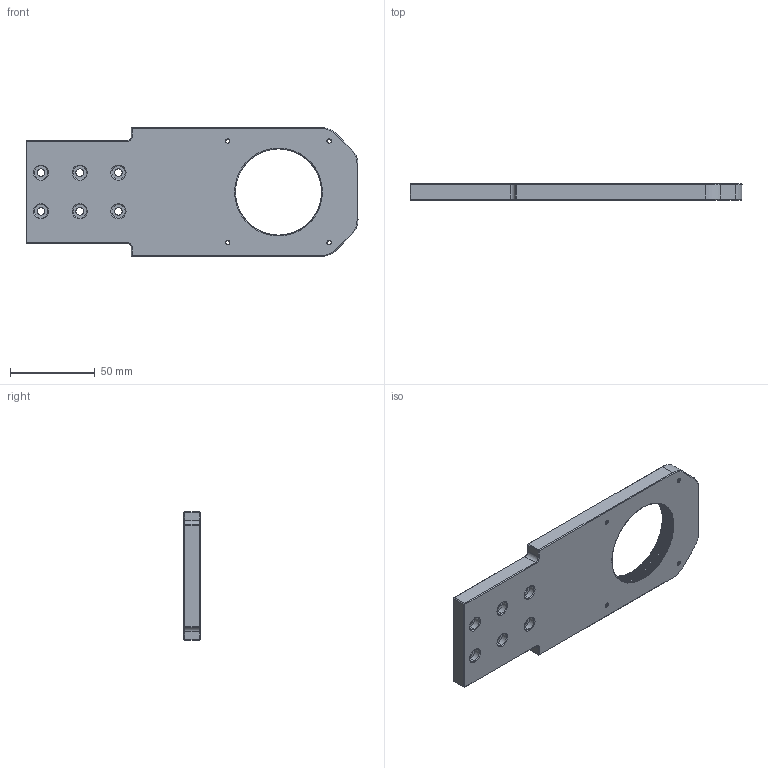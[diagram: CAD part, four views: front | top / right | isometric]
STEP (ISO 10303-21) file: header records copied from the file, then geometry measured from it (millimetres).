
FILE_DESCRIPTION((''),'2;1');
FILE_NAME('LMA95-SM2','2026-07-24T17:41:01',('R&D'),(''),'CREO PARAMETRIC BY PTC INC, 2021063','CREO PARAMETRIC BY PTC INC, 2021063','');
FILE_SCHEMA(('CONFIG_CONTROL_DESIGN'));
Length unit declared in the file: millimetre
Products named in the file (1): LMA95-SM2
Bounding box: 196.22 x 9.53 x 76.2 mm (x, y, z)
Volume: 107927.1 mm3; surface area: 31813.3 mm2
Topology: 1 solids, 1 shells, 353 faces, 937 edges, 598 vertices
Faces by surface type: cylinder 190, bspline 75, plane 48, cone 40
Entity records: 27365 total; most frequent: CARTESIAN_POINT 19503, ORIENTED_EDGE 1874, DIRECTION 1202, EDGE_CURVE 937, VERTEX_POINT 598, B_SPLINE_CURVE_WITH_KNOTS 427, AXIS2_PLACEMENT_3D 414, EDGE_LOOP 387
